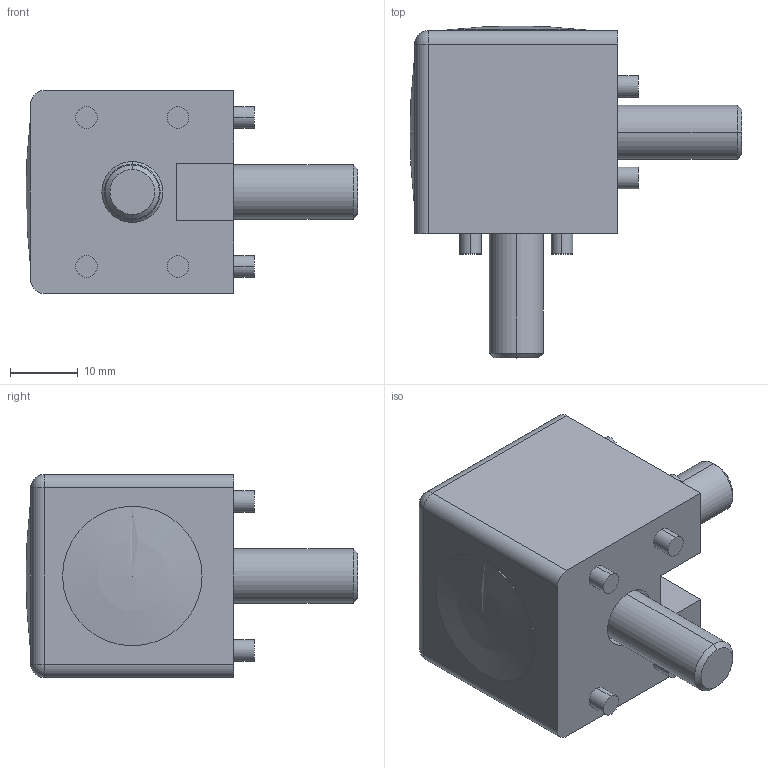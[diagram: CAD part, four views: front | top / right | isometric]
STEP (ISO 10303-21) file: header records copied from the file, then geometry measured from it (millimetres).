
FILE_DESCRIPTION(('FreeCAD Model'),'2;1');
FILE_NAME('Open CASCADE Shape Model','2021-05-04T11:25:45',('Author'),( ''),'Open CASCADE STEP processor 7.5','FreeCAD','Unknown');
FILE_SCHEMA(('AUTOMOTIVE_DESIGN { 1 0 10303 214 1 1 1 1 }'));
Length unit declared in the file: millimetre
Products named in the file (4): CUBE CONNECTOR 2D 30X30 ASSEMBLY; CUBE CONNECTOR 2D 30X30; CUBE CONNECTOR 2D 30X30 COVER CAP; socket countersunk head screw_iso_ISO 10642 - M8 x 25 --- 25N
Assembly tree (5 placements, depth 2):
  CUBE CONNECTOR 2D 30X30 ASSEMBLY
    CUBE CONNECTOR 2D 30X30
    CUBE CONNECTOR 2D 30X30 COVER CAP  x2
    socket countersunk head screw_iso_ISO 10642 - M8 x 25 --- 25N  x2
Bounding box: 49.04 x 49.04 x 30 mm (x, y, z)
Volume: 21268.4 mm3; surface area: 11365.8 mm2
Topology: 5 solids, 5 shells, 128 faces, 282 edges, 166 vertices
Faces by surface type: cylinder 53, plane 49, cone 16, sphere 6, torus 4
Entity records: 5697 total; most frequent: CARTESIAN_POINT 1497, DIRECTION 815, LINE 409, VECTOR 409, ORIENTED_EDGE 392, PCURVE 392, DEFINITIONAL_REPRESENTATION 392, EDGE_CURVE 196
